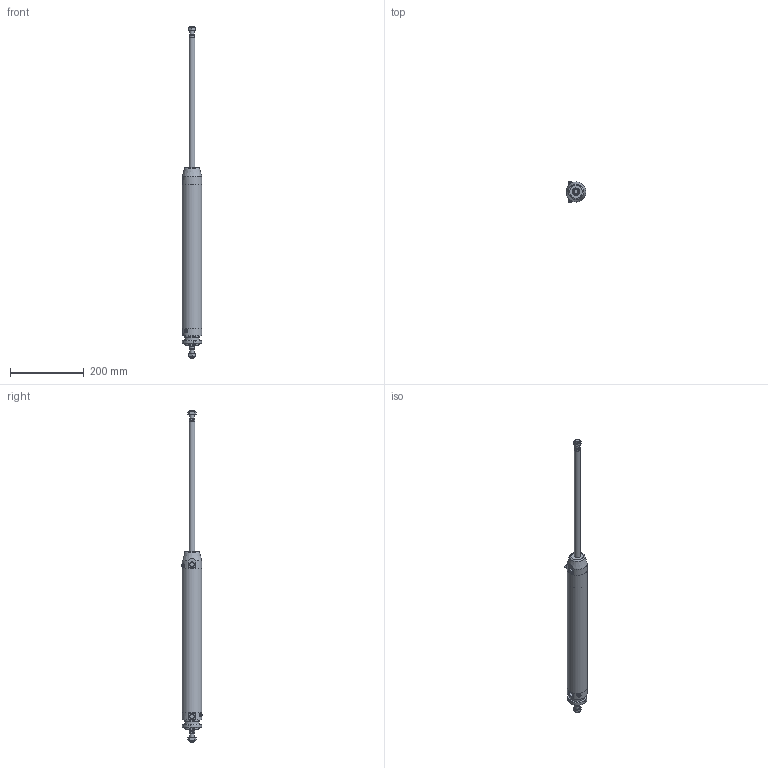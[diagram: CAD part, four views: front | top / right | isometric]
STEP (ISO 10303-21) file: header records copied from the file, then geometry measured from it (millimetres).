
FILE_DESCRIPTION(/* description */ (''),/* implementation_level */ '2;1');
FILE_NAME(/* name */ 'I:\Area Tecnica\Documenti\A-Manieri\_Inventor\12X\12X#T_###_####_#_#\12XDT_050_0350_#_#.stp',/* time_stamp */ '2015-05-13T09:09:33+02:00',/* author */ ('maniean1'),/* organization */ ('Pneumax S.p.A.'),/* preprocessor_version */ 'ST-DEVELOPER v15.2',/* originating_system */ 'Autodesk Inventor 2014',/* authorisation */ '');
FILE_SCHEMA (('AUTOMOTIVE_DESIGN { 1 0 10303 214 3 1 1 }'));
Length unit declared in the file: millimetre
Products named in the file (7): C1250_619-0350; 12X50_606; SP12X50_0350; 12X_50_11; 12X50_614; G12X_050_05; 12XDT_050_0350_#_#
Bounding box: 54 x 57.75 x 902 mm (x, y, z)
Volume: 539565.3 mm3; surface area: 214258.1 mm2
Topology: 7 solids, 7 shells, 125 faces, 280 edges, 180 vertices
Faces by surface type: plane 66, cylinder 30, cone 26, torus 3
Full cylindrical faces by diameter (mm): 5 x2, 10.2 x2, 11 x2, 11.4 x2, 12 x4, 14 x2, 15.6 x2, 16 x2, 38.2 x1, 40 x3, 50 x2, 54 x3
Entity records: 3058 total; most frequent: CARTESIAN_POINT 614, DIRECTION 513, ORIENTED_EDGE 402, AXIS2_PLACEMENT_3D 219, EDGE_CURVE 201, EDGE_LOOP 178, VERTEX_POINT 153, ADVANCED_FACE 114
